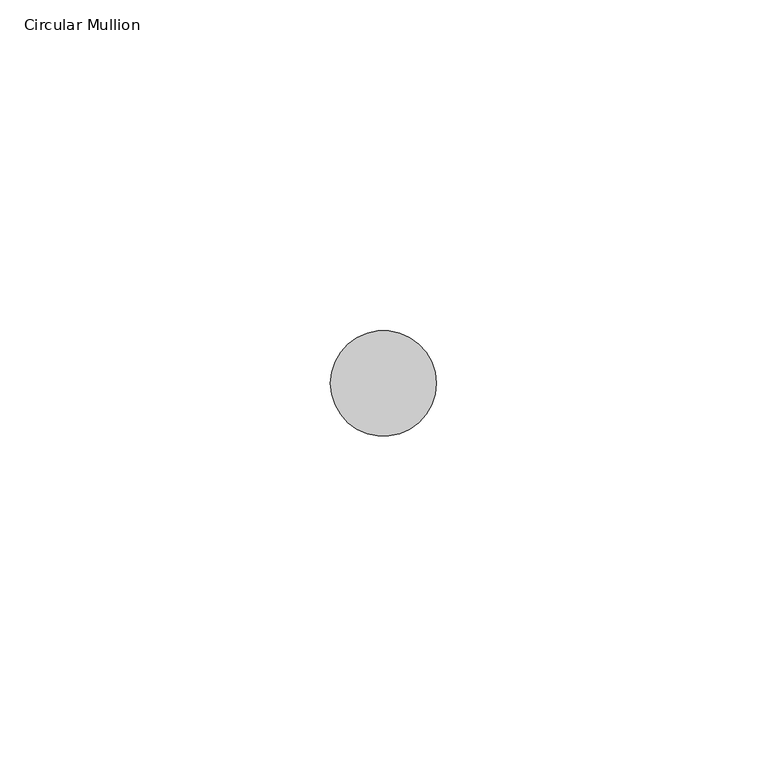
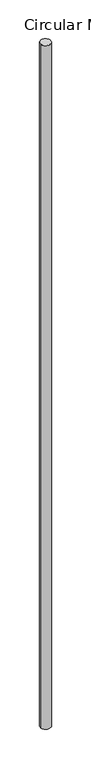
"""IFC4 building model written with IfcOpenShell, lengths in millimetres: member geometry, Circular Mullion : ARQ_HERR_16mm."""

from ifc_helpers import new_model, si_unit, point, frame, origin, origin_2d, place, context, project, spatial, circle_curve, trimmed, segment, composite_curve, outline, extrude, source, transform, mapped, element, save


def circular_mullion_ed335fbc(model_context):
    return source(origin(), model_context, "Body", "SweptSolid", [
        extrude(outline(composite_curve([segment(trimmed(circle_curve(origin_2d(), 8.0), [point((8.0, 0.0))], [point((-8.0, 0.0))], False, "CARTESIAN"), True, "CONTINUOUS"), segment(trimmed(circle_curve(origin_2d(), 8.0), [point((-8.0, 0.0))], [point((8.0, 0.0))], False, "CARTESIAN"), True, "CONTINUOUS")], self_intersect=False)), frame((0.0, 0.0, -1112.2700874), z_axis=(0.0, 0.0, 1.0), x_axis=(1.0, 0.0, 0.0)), (0.0, 0.0, 1.0), 1112.2700874),
    ])


if __name__ == "__main__":
    model = new_model("IFC4")
    model_context = context("Model", 3, world=origin())
    ifc_project = project(units=[si_unit("LENGTHUNIT", "METRE", prefix="MILLI")], contexts=[model_context])
    site = spatial("IfcSite", under=ifc_project)
    building = spatial("IfcBuilding", under=site)
    placement = place(None, origin())
    circular_mullion_shape = circular_mullion_ed335fbc(model_context)
    element("IfcMember", 1, ObjectType="Circular Mullion : ARQ_HERR_16mm", at=placement, inside=building, context=model_context, shape_type="MappedRepresentation", body=[
        mapped(circular_mullion_shape, transform((0.0, 0.0, 0.0), x_axis=(1.0, 0.0, 0.0), y_axis=(0.0, 1.0, 0.0), z_axis=(0.0, 0.0, 1.0))),
    ])
    save(model, "model.ifc")
